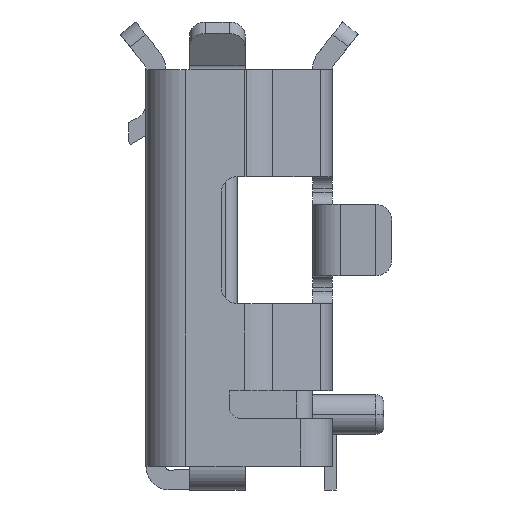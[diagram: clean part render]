
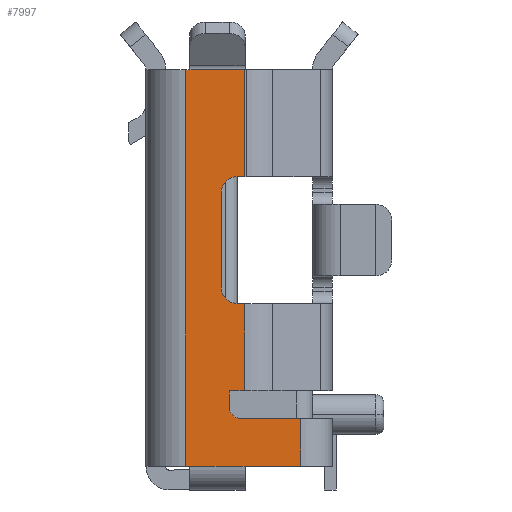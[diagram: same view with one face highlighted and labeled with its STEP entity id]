
A CAD part, left-side view. The second image highlights one B-rep face of the part: STEP entity #7997.
In plain terms, the highlighted planar face has unit normal (-1, 0, 0).
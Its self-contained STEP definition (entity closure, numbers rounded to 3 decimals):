
#2=DIRECTION('',(0.,0.,-1.));
#3=VECTOR('',#2,5.);
#4=CARTESIAN_POINT('',(-3.7,-0.2,3.5));
#5=LINE('',#4,#3);
#19=DIRECTION('',(0.,1.,0.));
#20=VECTOR('',#19,0.05);
#21=CARTESIAN_POINT('',(-3.7,-0.25,3.5));
#22=LINE('',#21,#20);
#136=CARTESIAN_POINT('',(-3.7,-0.9,-0.75));
#137=DIRECTION('',(-1.,0.,0.));
#138=DIRECTION('',(0.,1.,0.));
#139=AXIS2_PLACEMENT_3D('',#136,#137,#138);
#141=DIRECTION('',(0.,1.,0.));
#142=VECTOR('',#141,0.05);
#143=CARTESIAN_POINT('',(-3.7,-0.25,-1.5));
#144=LINE('',#143,#142);
#145=CARTESIAN_POINT('',(-3.7,-0.85,1.95));
#146=DIRECTION('',(-1.,0.,0.));
#147=DIRECTION('',(0.,0.,1.));
#148=AXIS2_PLACEMENT_3D('',#145,#146,#147);
#150=CARTESIAN_POINT('',(-3.7,-0.85,0.75));
#151=DIRECTION('',(-1.,0.,0.));
#152=DIRECTION('',(0.,1.,0.));
#153=AXIS2_PLACEMENT_3D('',#150,#151,#152);
#163=DIRECTION('',(0.,0.,1.));
#164=VECTOR('',#163,0.2);
#165=CARTESIAN_POINT('',(-3.7,-0.75,-0.75));
#166=LINE('',#165,#164);
#180=DIRECTION('',(0.,-1.,0.));
#181=VECTOR('',#180,0.15);
#182=CARTESIAN_POINT('',(-3.7,-0.75,-0.55));
#183=LINE('',#182,#181);
#184=DIRECTION('',(0.,-1.,0.));
#185=VECTOR('',#184,0.046);
#186=CARTESIAN_POINT('',(-3.7,-0.9,-0.55));
#187=LINE('',#186,#185);
#1036=DIRECTION('',(0.,-1.,0.));
#1037=VECTOR('',#1036,0.7);
#1038=CARTESIAN_POINT('',(-3.7,-0.95,-1.5));
#1039=LINE('',#1038,#1037);
#1716=DIRECTION('',(0.,1.,0.));
#1717=VECTOR('',#1716,0.75);
#1718=CARTESIAN_POINT('',(-3.7,-1.65,
-0.9));
#1719=LINE('',#1718,#1717);
#1733=DIRECTION('',(0.,0.,1.));
#1734=VECTOR('',#1733,0.6);
#1735=CARTESIAN_POINT('',(-3.7,-1.65,-1.5));
#1736=LINE('',#1735,#1734);
#1782=DIRECTION('',(0.,1.,0.));
#1783=VECTOR('',#1782,0.096);
#1784=CARTESIAN_POINT('',(-3.7,-0.946,
0.55));
#1785=LINE('',#1784,#1783);
#1981=CARTESIAN_POINT('',(-3.7,-0.85,2.15));
#1982=CARTESIAN_POINT('',(-3.7,-0.882,2.15));
#1983=CARTESIAN_POINT('',(-3.7,-0.914,2.15));
#1984=CARTESIAN_POINT('',(-3.7,-0.946,2.15));
#2086=DIRECTION('',(0.,0.,1.));
#2087=VECTOR('',#2086,1.35);
#2088=CARTESIAN_POINT('',(-3.7,-0.946,2.15));
#2089=LINE('',#2088,#2087);
#2103=DIRECTION('',(0.,1.,0.));
#2104=VECTOR('',#2103,0.076);
#2105=CARTESIAN_POINT('',(-3.7,-0.946,3.5));
#2106=LINE('',#2105,#2104);
#2107=DIRECTION('',(0.,1.,0.));
#2108=VECTOR('',#2107,0.6);
#2109=CARTESIAN_POINT('',(-3.7,-0.87,3.5));
#2110=LINE('',#2109,#2108);
#2111=DIRECTION('',(0.,1.,0.));
#2112=VECTOR('',#2111,0.02);
#2113=CARTESIAN_POINT('',(-3.7,-0.27,3.5));
#2114=LINE('',#2113,#2112);
#3830=DIRECTION('',(0.,0.,1.));
#3831=VECTOR('',#3830,1.2);
#3832=CARTESIAN_POINT('',(-3.7,-0.65,
0.75));
#3833=LINE('',#3832,#3831);
#3854=DIRECTION('',(0.,0.,1.));
#3855=VECTOR('',#3854,0.55);
#3856=CARTESIAN_POINT('',(-3.7,-0.946,-0.55));
#3857=LINE('',#3856,#3855);
#3858=DIRECTION('',(0.,0.,1.));
#3859=VECTOR('',#3858,0.55);
#3860=CARTESIAN_POINT('',(-3.7,-0.946,0.));
#3861=LINE('',#3860,#3859);
#4357=DIRECTION('',(0.,-1.,0.));
#4358=VECTOR('',#4357,0.5);
#4359=CARTESIAN_POINT('',(-3.7,-0.25,-1.5));
#4360=LINE('',#4359,#4358);
#4361=DIRECTION('',(0.,-1.,0.));
#4362=VECTOR('',#4361,0.2);
#4363=CARTESIAN_POINT('',(-3.7,-0.75,-1.5));
#4364=LINE('',#4363,#4362);
#5956=CARTESIAN_POINT('',(-3.7,-0.946,2.15));
#5958=VERTEX_POINT('',#5956);
#6014=CARTESIAN_POINT('',(-3.7,-0.2,3.5));
#6016=VERTEX_POINT('',#6014);
#6018=CARTESIAN_POINT('',(-3.7,-0.2,-1.5));
#6019=VERTEX_POINT('',#6018);
#6134=CARTESIAN_POINT('',(-3.7,-0.25,-1.5));
#6135=VERTEX_POINT('',#6134);
#6136=CARTESIAN_POINT('',(-3.7,-0.75,-0.75));
#6137=CARTESIAN_POINT('',(-3.7,-0.75,-0.55));
#6138=VERTEX_POINT('',#6136);
#6139=VERTEX_POINT('',#6137);
#6140=CARTESIAN_POINT('',(-3.7,-0.9,-0.9));
#6141=VERTEX_POINT('',#6140);
#6142=CARTESIAN_POINT('',(-3.7,-1.65,
-0.9));
#6143=VERTEX_POINT('',#6142);
#6144=CARTESIAN_POINT('',(-3.7,-1.65,-1.5));
#6145=VERTEX_POINT('',#6144);
#6146=CARTESIAN_POINT('',(-3.7,-0.95,-1.5));
#6147=VERTEX_POINT('',#6146);
#6148=CARTESIAN_POINT('',(-3.7,-0.75,-1.5));
#6149=VERTEX_POINT('',#6148);
#6150=CARTESIAN_POINT('',(-3.7,-0.25,3.5));
#6151=VERTEX_POINT('',#6150);
#6152=CARTESIAN_POINT('',(-3.7,-0.27,3.5));
#6153=VERTEX_POINT('',#6152);
#6154=CARTESIAN_POINT('',(-3.7,-0.87,3.5));
#6155=VERTEX_POINT('',#6154);
#6156=CARTESIAN_POINT('',(-3.7,-0.946,3.5));
#6157=VERTEX_POINT('',#6156);
#6158=VERTEX_POINT('',#1981);
#6159=CARTESIAN_POINT('',(-3.7,-0.65,1.95));
#6160=VERTEX_POINT('',#6159);
#6161=CARTESIAN_POINT('',(-3.7,-0.65,
0.75));
#6162=VERTEX_POINT('',#6161);
#6163=CARTESIAN_POINT('',(-3.7,-0.85,0.55));
#6164=VERTEX_POINT('',#6163);
#6165=CARTESIAN_POINT('',(-3.7,-0.946,
0.55));
#6166=VERTEX_POINT('',#6165);
#6167=CARTESIAN_POINT('',(-3.7,-0.946,0.));
#6168=VERTEX_POINT('',#6167);
#6169=CARTESIAN_POINT('',(-3.7,-0.946,-0.55));
#6170=VERTEX_POINT('',#6169);
#6171=CARTESIAN_POINT('',(-3.7,-0.9,-0.55));
#6172=VERTEX_POINT('',#6171);
#7947=CARTESIAN_POINT('',(-3.7,0.,0.));
#7948=DIRECTION('',(-1.,0.,0.));
#7949=DIRECTION('',(0.,-1.,0.));
#7950=AXIS2_PLACEMENT_3D('',#7947,#7948,#7949);
#7951=PLANE('',#7950);
#7953=ORIENTED_EDGE('',*,*,#7952,.F.);
#7955=ORIENTED_EDGE('',*,*,#7954,.T.);
#7957=ORIENTED_EDGE('',*,*,#7956,.F.);
#7959=ORIENTED_EDGE('',*,*,#7958,.F.);
#7961=ORIENTED_EDGE('',*,*,#7960,.F.);
#7963=ORIENTED_EDGE('',*,*,#7962,.F.);
#7965=ORIENTED_EDGE('',*,*,#7964,.F.);
#7966=ORIENTED_EDGE('',*,*,#7928,.T.);
#7967=ORIENTED_EDGE('',*,*,#7766,.F.);
#7968=ORIENTED_EDGE('',*,*,#7792,.F.);
#7970=ORIENTED_EDGE('',*,*,#7969,.F.);
#7972=ORIENTED_EDGE('',*,*,#7971,.F.);
#7974=ORIENTED_EDGE('',*,*,#7973,.F.);
#7976=ORIENTED_EDGE('',*,*,#7975,.F.);
#7978=ORIENTED_EDGE('',*,*,#7977,.F.);
#7980=ORIENTED_EDGE('',*,*,#7979,.T.);
#7982=ORIENTED_EDGE('',*,*,#7981,.F.);
#7984=ORIENTED_EDGE('',*,*,#7983,.T.);
#7986=ORIENTED_EDGE('',*,*,#7985,.F.);
#7988=ORIENTED_EDGE('',*,*,#7987,.F.);
#7990=ORIENTED_EDGE('',*,*,#7989,.F.);
#7992=ORIENTED_EDGE('',*,*,#7991,.F.);
#7994=ORIENTED_EDGE('',*,*,#7993,.F.);
#7995=EDGE_LOOP('',(#7953,#7955,#7957,#7959,#7961,#7963,#7965,#7966,#7967,#7968,
#7970,#7972,#7974,#7976,#7978,#7980,#7982,#7984,#7986,#7988,#7990,#7992,#7994));
#7996=FACE_OUTER_BOUND('',#7995,.F.);
#140=CIRCLE('',#139,0.15);
#149=CIRCLE('',#148,0.2);
#154=CIRCLE('',#153,0.2);
#1985=B_SPLINE_CURVE_WITH_KNOTS('',3,(#1981,#1982,#1983,#1984),.UNSPECIFIED.,
.F.,.F.,(4,4),(0.,1.),.UNSPECIFIED.);
#7766=EDGE_CURVE('',#6016,#6019,#5,.T.);
#7792=EDGE_CURVE('',#6151,#6016,#22,.T.);
#7928=EDGE_CURVE('',#6135,#6019,#144,.T.);
#7952=EDGE_CURVE('',#6138,#6139,#166,.T.);
#7954=EDGE_CURVE('',#6138,#6141,#140,.T.);
#7956=EDGE_CURVE('',#6143,#6141,#1719,.T.);
#7958=EDGE_CURVE('',#6145,#6143,#1736,.T.);
#7960=EDGE_CURVE('',#6147,#6145,#1039,.T.);
#7962=EDGE_CURVE('',#6149,#6147,#4364,.T.);
#7964=EDGE_CURVE('',#6135,#6149,#4360,.T.);
#7969=EDGE_CURVE('',#6153,#6151,#2114,.T.);
#7971=EDGE_CURVE('',#6155,#6153,#2110,.T.);
#7973=EDGE_CURVE('',#6157,#6155,#2106,.T.);
#7975=EDGE_CURVE('',#5958,#6157,#2089,.T.);
#7977=EDGE_CURVE('',#6158,#5958,#1985,.T.);
#7979=EDGE_CURVE('',#6158,#6160,#149,.T.);
#7981=EDGE_CURVE('',#6162,#6160,#3833,.T.);
#7983=EDGE_CURVE('',#6162,#6164,#154,.T.);
#7985=EDGE_CURVE('',#6166,#6164,#1785,.T.);
#7987=EDGE_CURVE('',#6168,#6166,#3861,.T.);
#7989=EDGE_CURVE('',#6170,#6168,#3857,.T.);
#7991=EDGE_CURVE('',#6172,#6170,#187,.T.);
#7993=EDGE_CURVE('',#6139,#6172,#183,.T.);
#7997=ADVANCED_FACE('',(#7996),#7951,.T.);
